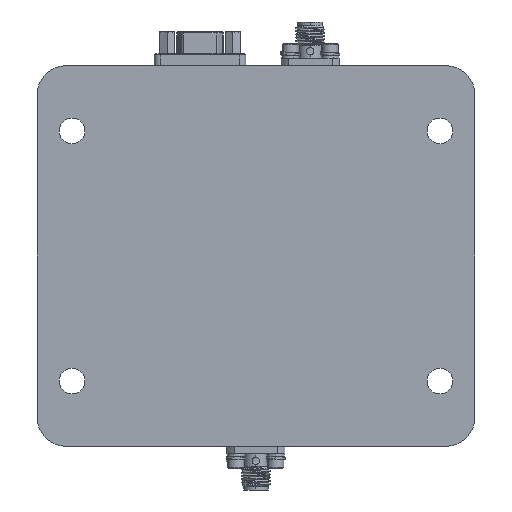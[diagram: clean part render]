
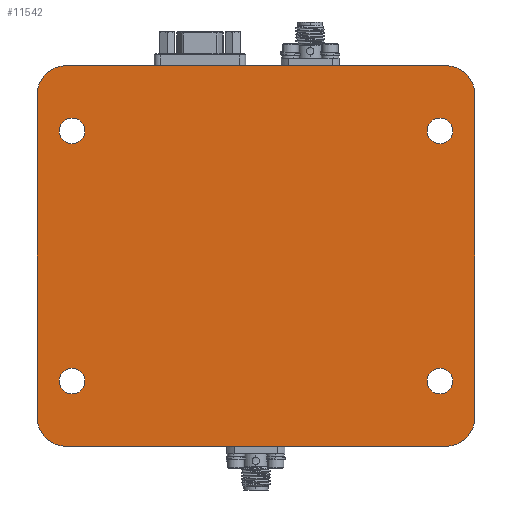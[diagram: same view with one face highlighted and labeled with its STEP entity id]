
A CAD part, front view. The second image highlights one B-rep face of the part: STEP entity #11542.
In plain terms, the highlighted planar face has unit normal (0, -1, 0).
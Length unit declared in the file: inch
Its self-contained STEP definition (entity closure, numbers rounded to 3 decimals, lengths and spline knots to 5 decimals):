
#342 = CARTESIAN_POINT ( 'NONE',  ( 1.58, -0.45, -0.56 ) ) ;
#762 = ORIENTED_EDGE ( 'NONE', *, *, #24280, .T. ) ;
#1370 = CARTESIAN_POINT ( 'NONE',  ( 1.88, -0.45, 0. ) ) ;
#1475 = DIRECTION ( 'NONE',  ( 0., 1., 0. ) ) ;
#1568 = VERTEX_POINT ( 'NONE', #12067 ) ;
#2329 = EDGE_CURVE ( 'NONE', #10420, #15192, #12889, .T. ) ;
#2909 = VERTEX_POINT ( 'NONE', #17412 ) ;
#2942 = CARTESIAN_POINT ( 'NONE',  ( -1.58, -0.45, -0.67 ) ) ;
#3166 = ORIENTED_EDGE ( 'NONE', *, *, #5340, .T. ) ;
#3478 = CARTESIAN_POINT ( 'NONE',  ( -1.88, -0.45, -3.27 ) ) ;
#3770 = DIRECTION ( 'NONE',  ( 0., 1., 0. ) ) ;
#4135 = CARTESIAN_POINT ( 'NONE',  ( -1.63, -0.45, 0. ) ) ;
#4273 = CARTESIAN_POINT ( 'NONE',  ( -1.63, -0.45, -3.27 ) ) ;
#5340 = EDGE_CURVE ( 'NONE', #27428, #35751, #17299, .T. ) ;
#5706 = ORIENTED_EDGE ( 'NONE', *, *, #51744, .T. ) ;
#5900 = EDGE_CURVE ( 'NONE', #28676, #35751, #24428, .T. ) ;
#6197 = AXIS2_PLACEMENT_3D ( 'NONE', #25474, #37899, #33841 ) ;
#6251 = EDGE_LOOP ( 'NONE', ( #18196, #762 ) ) ;
#6755 = DIRECTION ( 'NONE',  ( 0., 0., 1. ) ) ;
#6887 = DIRECTION ( 'NONE',  ( 1., 0., 0. ) ) ;
#7097 = CIRCLE ( 'NONE', #6197, 0.25 ) ;
#7182 = FACE_OUTER_BOUND ( 'NONE', #22892, .T. ) ;
#7247 = AXIS2_PLACEMENT_3D ( 'NONE', #20567, #37072, #53564 ) ;
#7544 = ORIENTED_EDGE ( 'NONE', *, *, #23255, .T. ) ;
#7641 = EDGE_LOOP ( 'NONE', ( #30972, #5706 ) ) ;
#8116 = CARTESIAN_POINT ( 'NONE',  ( -1.58, -0.45, -2.82 ) ) ;
#8294 = ORIENTED_EDGE ( 'NONE', *, *, #23349, .T. ) ;
#9482 = LINE ( 'NONE', #46657, #26080 ) ;
#9961 = ORIENTED_EDGE ( 'NONE', *, *, #51687, .F. ) ;
#10404 = AXIS2_PLACEMENT_3D ( 'NONE', #18323, #1475, #42985 ) ;
#10420 = VERTEX_POINT ( 'NONE', #8116 ) ;
#10660 = CARTESIAN_POINT ( 'NONE',  ( -1.63, -0.45, -3.02 ) ) ;
#10971 = CARTESIAN_POINT ( 'NONE',  ( 1.33, -0.45, -3.27 ) ) ;
#11145 = CARTESIAN_POINT ( 'NONE',  ( 1.58, -0.45, -0.45 ) ) ;
#11307 = DIRECTION ( 'NONE',  ( 0., 0., 1. ) ) ;
#11542 = ADVANCED_FACE ( 'NONE', ( #36186, #35937, #19136, #52179, #7182 ), #15059, .T. ) ;
#11989 = CIRCLE ( 'NONE', #41469, 0.11 ) ;
#12067 = CARTESIAN_POINT ( 'NONE',  ( 1.58, -0.45, -0.67 ) ) ;
#12889 = CIRCLE ( 'NONE', #43229, 0.11 ) ;
#13681 = AXIS2_PLACEMENT_3D ( 'NONE', #31713, #32244, #11307 ) ;
#13683 = DIRECTION ( 'NONE',  ( 0., 1., 0. ) ) ;
#14822 = ORIENTED_EDGE ( 'NONE', *, *, #41033, .T. ) ;
#14910 = DIRECTION ( 'NONE',  ( 1., 0., 0. ) ) ;
#15059 = PLANE ( 'NONE',  #51585 ) ;
#15192 = VERTEX_POINT ( 'NONE', #31843 ) ;
#15294 = VERTEX_POINT ( 'NONE', #38021 ) ;
#15449 = CIRCLE ( 'NONE', #52765, 0.11 ) ;
#15645 = EDGE_CURVE ( 'NONE', #32577, #35811, #31532, .T. ) ;
#16372 = DIRECTION ( 'NONE',  ( 1., 0., 0. ) ) ;
#16706 = CARTESIAN_POINT ( 'NONE',  ( 1.88, -0.45, -3.02 ) ) ;
#16927 = DIRECTION ( 'NONE',  ( 0., 1., 0. ) ) ;
#17100 = VERTEX_POINT ( 'NONE', #2942 ) ;
#17299 = CIRCLE ( 'NONE', #32027, 0.25 ) ;
#17412 = CARTESIAN_POINT ( 'NONE',  ( 1.63, -0.45, 0. ) ) ;
#17780 = DIRECTION ( 'NONE',  ( 1., 0., 0. ) ) ;
#17883 = CARTESIAN_POINT ( 'NONE',  ( -1.58, -0.45, -2.71 ) ) ;
#18119 = AXIS2_PLACEMENT_3D ( 'NONE', #47459, #31758, #6755 ) ;
#18196 = ORIENTED_EDGE ( 'NONE', *, *, #22550, .T. ) ;
#18323 = CARTESIAN_POINT ( 'NONE',  ( -1.58, -0.45, -2.71 ) ) ;
#18749 = DIRECTION ( 'NONE',  ( 0., 0., -1. ) ) ;
#19136 = FACE_BOUND ( 'NONE', #45500, .T. ) ;
#19335 = CARTESIAN_POINT ( 'NONE',  ( -1.63, -0.45, -0.25 ) ) ;
#20152 = VERTEX_POINT ( 'NONE', #36301 ) ;
#20567 = CARTESIAN_POINT ( 'NONE',  ( 1.63, -0.45, -3.02 ) ) ;
#21483 = DIRECTION ( 'NONE',  ( 0., 0., 1. ) ) ;
#22550 = EDGE_CURVE ( 'NONE', #20152, #17100, #32742, .T. ) ;
#22892 = EDGE_LOOP ( 'NONE', ( #34955, #43208, #9961, #3166, #52502, #38294, #14822, #41221 ) ) ;
#23255 = EDGE_CURVE ( 'NONE', #15294, #45771, #11989, .T. ) ;
#23349 = EDGE_CURVE ( 'NONE', #45771, #15294, #49220, .T. ) ;
#24280 = EDGE_CURVE ( 'NONE', #17100, #20152, #15449, .T. ) ;
#24428 = LINE ( 'NONE', #3478, #47624 ) ;
#24942 = EDGE_CURVE ( 'NONE', #40784, #1568, #47535, .T. ) ;
#25185 = CIRCLE ( 'NONE', #33824, 0.11 ) ;
#25474 = CARTESIAN_POINT ( 'NONE',  ( 1.63, -0.45, -0.25 ) ) ;
#26036 = DIRECTION ( 'NONE',  ( 0., 0., 1. ) ) ;
#26080 = VECTOR ( 'NONE', #14910, 39.37008 ) ;
#26107 = LINE ( 'NONE', #1370, #39214 ) ;
#27276 = DIRECTION ( 'NONE',  ( 0., -1., 0. ) ) ;
#27428 = VERTEX_POINT ( 'NONE', #4135 ) ;
#28636 = LINE ( 'NONE', #36176, #29518 ) ;
#28676 = VERTEX_POINT ( 'NONE', #53330 ) ;
#28767 = VERTEX_POINT ( 'NONE', #29010 ) ;
#29010 = CARTESIAN_POINT ( 'NONE',  ( 1.88, -0.45, -0.25 ) ) ;
#29518 = VECTOR ( 'NONE', #16372, 39.37008 ) ;
#29958 = CIRCLE ( 'NONE', #48081, 0.25 ) ;
#29975 = EDGE_CURVE ( 'NONE', #28767, #2909, #7097, .T. ) ;
#30285 = DIRECTION ( 'NONE',  ( 0., 0., 1. ) ) ;
#30972 = ORIENTED_EDGE ( 'NONE', *, *, #24942, .T. ) ;
#31532 = CIRCLE ( 'NONE', #7247, 0.25 ) ;
#31713 = CARTESIAN_POINT ( 'NONE',  ( -1.58, -0.45, -0.56 ) ) ;
#31758 = DIRECTION ( 'NONE',  ( 0., 1., 0. ) ) ;
#31843 = CARTESIAN_POINT ( 'NONE',  ( -1.58, -0.45, -2.6 ) ) ;
#32027 = AXIS2_PLACEMENT_3D ( 'NONE', #19335, #40471, #48572 ) ;
#32244 = DIRECTION ( 'NONE',  ( 0., 1., 0. ) ) ;
#32577 = VERTEX_POINT ( 'NONE', #51775 ) ;
#32578 = EDGE_CURVE ( 'NONE', #28767, #35811, #26107, .T. ) ;
#32742 = CIRCLE ( 'NONE', #13681, 0.11 ) ;
#33824 = AXIS2_PLACEMENT_3D ( 'NONE', #342, #16927, #51021 ) ;
#33841 = DIRECTION ( 'NONE',  ( 1., 0., 0. ) ) ;
#34103 = ORIENTED_EDGE ( 'NONE', *, *, #36019, .T. ) ;
#34955 = ORIENTED_EDGE ( 'NONE', *, *, #32578, .F. ) ;
#35751 = VERTEX_POINT ( 'NONE', #49475 ) ;
#35811 = VERTEX_POINT ( 'NONE', #16706 ) ;
#35937 = FACE_BOUND ( 'NONE', #7641, .T. ) ;
#36019 = EDGE_CURVE ( 'NONE', #15192, #10420, #45928, .T. ) ;
#36176 = CARTESIAN_POINT ( 'NONE',  ( 1.33, -0.45, 0. ) ) ;
#36186 = FACE_BOUND ( 'NONE', #6251, .T. ) ;
#36301 = CARTESIAN_POINT ( 'NONE',  ( -1.58, -0.45, -0.45 ) ) ;
#37072 = DIRECTION ( 'NONE',  ( 0., -1., 0. ) ) ;
#37899 = DIRECTION ( 'NONE',  ( 0., -1., 0. ) ) ;
#38021 = CARTESIAN_POINT ( 'NONE',  ( 1.58, -0.45, -2.6 ) ) ;
#38294 = ORIENTED_EDGE ( 'NONE', *, *, #47075, .T. ) ;
#38454 = EDGE_LOOP ( 'NONE', ( #34103, #39901 ) ) ;
#39214 = VECTOR ( 'NONE', #18749, 39.37008 ) ;
#39901 = ORIENTED_EDGE ( 'NONE', *, *, #2329, .T. ) ;
#40471 = DIRECTION ( 'NONE',  ( 0., -1., 0. ) ) ;
#40784 = VERTEX_POINT ( 'NONE', #11145 ) ;
#41033 = EDGE_CURVE ( 'NONE', #42400, #32577, #9482, .T. ) ;
#41207 = CARTESIAN_POINT ( 'NONE',  ( -1.58, -0.45, -0.56 ) ) ;
#41221 = ORIENTED_EDGE ( 'NONE', *, *, #15645, .T. ) ;
#41469 = AXIS2_PLACEMENT_3D ( 'NONE', #51230, #42330, #21483 ) ;
#41732 = DIRECTION ( 'NONE',  ( 0., 1., 0. ) ) ;
#41742 = DIRECTION ( 'NONE',  ( 0., 0., 1. ) ) ;
#42330 = DIRECTION ( 'NONE',  ( 0., 1., 0. ) ) ;
#42369 = AXIS2_PLACEMENT_3D ( 'NONE', #50816, #13683, #30285 ) ;
#42400 = VERTEX_POINT ( 'NONE', #4273 ) ;
#42985 = DIRECTION ( 'NONE',  ( 0., 0., 1. ) ) ;
#43208 = ORIENTED_EDGE ( 'NONE', *, *, #29975, .T. ) ;
#43229 = AXIS2_PLACEMENT_3D ( 'NONE', #17883, #41732, #26036 ) ;
#44070 = DIRECTION ( 'NONE',  ( 0., -1., 0. ) ) ;
#45500 = EDGE_LOOP ( 'NONE', ( #7544, #8294 ) ) ;
#45771 = VERTEX_POINT ( 'NONE', #45937 ) ;
#45928 = CIRCLE ( 'NONE', #10404, 0.11 ) ;
#45937 = CARTESIAN_POINT ( 'NONE',  ( 1.58, -0.45, -2.82 ) ) ;
#46657 = CARTESIAN_POINT ( 'NONE',  ( 1.33, -0.45, -3.27 ) ) ;
#47075 = EDGE_CURVE ( 'NONE', #28676, #42400, #29958, .T. ) ;
#47459 = CARTESIAN_POINT ( 'NONE',  ( 1.58, -0.45, -2.71 ) ) ;
#47535 = CIRCLE ( 'NONE', #42369, 0.11 ) ;
#47624 = VECTOR ( 'NONE', #53094, 39.37008 ) ;
#48081 = AXIS2_PLACEMENT_3D ( 'NONE', #10660, #27276, #17780 ) ;
#48572 = DIRECTION ( 'NONE',  ( 1., 0., 0. ) ) ;
#49220 = CIRCLE ( 'NONE', #18119, 0.11 ) ;
#49475 = CARTESIAN_POINT ( 'NONE',  ( -1.88, -0.45, -0.25 ) ) ;
#50816 = CARTESIAN_POINT ( 'NONE',  ( 1.58, -0.45, -0.56 ) ) ;
#51021 = DIRECTION ( 'NONE',  ( 0., 0., 1. ) ) ;
#51230 = CARTESIAN_POINT ( 'NONE',  ( 1.58, -0.45, -2.71 ) ) ;
#51585 = AXIS2_PLACEMENT_3D ( 'NONE', #10971, #44070, #6887 ) ;
#51687 = EDGE_CURVE ( 'NONE', #27428, #2909, #28636, .T. ) ;
#51744 = EDGE_CURVE ( 'NONE', #1568, #40784, #25185, .T. ) ;
#51775 = CARTESIAN_POINT ( 'NONE',  ( 1.63, -0.45, -3.27 ) ) ;
#52179 = FACE_BOUND ( 'NONE', #38454, .T. ) ;
#52502 = ORIENTED_EDGE ( 'NONE', *, *, #5900, .F. ) ;
#52765 = AXIS2_PLACEMENT_3D ( 'NONE', #41207, #3770, #41742 ) ;
#53094 = DIRECTION ( 'NONE',  ( 0., 0., 1. ) ) ;
#53330 = CARTESIAN_POINT ( 'NONE',  ( -1.88, -0.45, -3.02 ) ) ;
#53564 = DIRECTION ( 'NONE',  ( 1., 0., 0. ) ) ;
